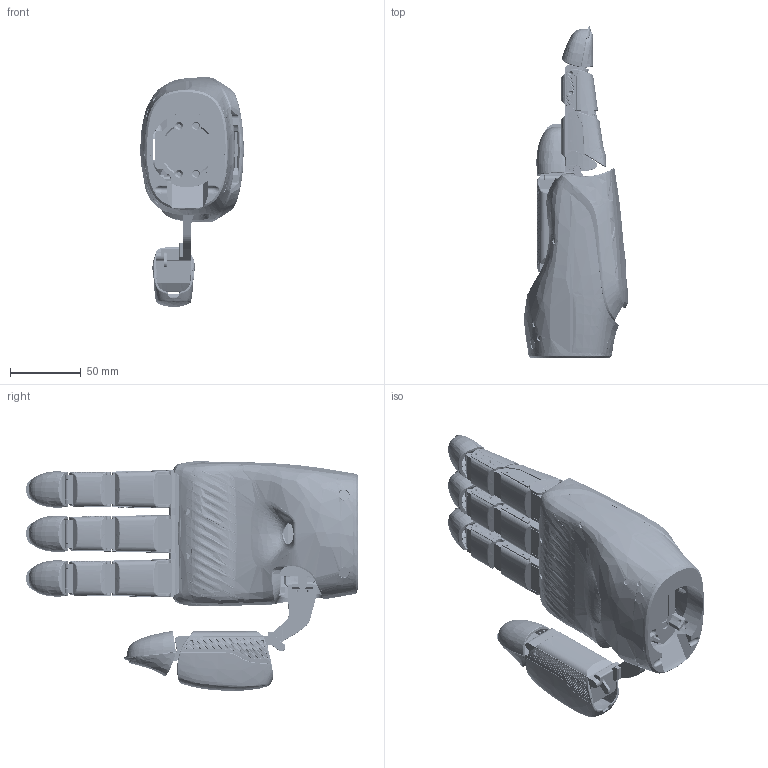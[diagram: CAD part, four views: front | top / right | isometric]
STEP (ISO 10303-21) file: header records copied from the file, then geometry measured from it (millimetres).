
FILE_DESCRIPTION((''),'2;1');
FILE_NAME('ASM0001_ASM_ASM','2025-08-18T17:59:40',('jinhui'),(''),'CREO PARAMETRIC BY PTC INC, 2021063','CREO PARAMETRIC BY PTC INC, 2021063','');
FILE_SCHEMA(('AUTOMOTIVE_DESIGN { 1 0 10303 214 1 1 1 1 }'));
Products named in the file (73): P01H9-MP0-01-D10001_1_3_MIR_1; P01H9-MP0-14-D2000_2_3_MIR_1; P01H9-MP0-15-D3000_2_3_MIR_1; P01H9-MP0-28-D0001_2_3_MIR_1; P01H9M1-31-C4000_2_ASM_2_MIR_1; 3-------OLD0001_ASM_4_ASM_2_MIR_ASM; P01H9M1-34-C30001_2_2_MIR_1; 4-------OLD0001_ASM_4_ASM_2_MIR_ASM; P01H9M1-32-C0001_1_3_MIR_1; 00-A_1_1_1_1_1_2_2_MIR_1; 00-B_1_1_1_1_1_2_2_MIR_1; 0013_ASM_2_ASM_2_MIR_ASM_1_ASM; 0012_ASM_1_ASM_2_MIR_ASM_1_ASM; P01S0M1-10001-A_1_56_1_2_2_MIR_; 2024_7_3_ASM_2_ASM_2_MIR_ASM_1_ASM; 2406270001_ASM_2_ASM_2_MIR_ASM__ASM; P01H9M1-115-C-0001_2_3_MIR_1; P01H9M1-116-B-0001_2_2_MIR_1; 2409050001_ASM_3_ASM_2_MIR_ASM__ASM; 20005_ASM_2_ASM_2_MIR_ASM_1_ASM; P01H9M1-125-B_0001_2_2_MIR_1; P01H9M1-124-C_0001_2_3_MIR_1; 2409060001_ASM_1_ASM_2_MIR_ASM__ASM; 0014_ASM_1_ASM_2_MIR_ASM_1_ASM; 2--EVT40001_ASM_4_ASM_2_MIR_ASM_ASM; P01H9M1-03-C0001_1_3_MIR_1; P01H9M1-07-B100_2_3_MIR_1; P01H9-MP0-05-C0001_2_3_MIR_1; P01H9M1-08-B200_1_2_MIR_1; P01H9M1-103-B-0001_2_2_MIR_1; P01H9M1-104-B-0001_2_2_MIR_1; P01H9M1-101-C-0001_3_4_MIR_1; P01H9M1-102-C-_NEW0001_2_4_MIR_; BREP_1_1_2_2_MIR_1; BREP_2_1_2_2_2_MIR_1; BREP_3_1_2_3_4_2_2_MIR_1; P01H9M1-132-A-0001_2_2_MIR_1; DOCUMENT_A_1_ASM_2_ASM_3_MIR_AS_ASM; 09260001_ASM_1_ASM_2_MIR_ASM_1_ASM; 2407090001_ASM_1_ASM_2_MIR_ASM__ASM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
Assembly tree (76 placements, depth 7):
  ASM0001_ASM_ASM
    ASM0001_ASM_1_ASM
      1-_1-EVT40001_ASM_4_ASM_3_MIR_A_ASM
        P01H9-MP0-01-D10001_1_3_MIR_1
        2--EVT40001_ASM_4_ASM_2_MIR_ASM_ASM
          P01H9-MP0-14-D2000_2_3_MIR_1
          P01H9-MP0-15-D3000_2_3_MIR_1
          P01H9-MP0-28-D0001_2_3_MIR_1
          3-------OLD0001_ASM_4_ASM_2_MIR_ASM
            P01H9M1-31-C4000_2_ASM_2_MIR_1
          P01H9M1-34-C30001_2_2_MIR_1
          4-------OLD0001_ASM_4_ASM_2_MIR_ASM
            P01H9M1-31-C4000_2_ASM_2_MIR_1
          0012_ASM_1_ASM_2_MIR_ASM_1_ASM
            P01H9M1-32-C0001_1_3_MIR_1
            0013_ASM_2_ASM_2_MIR_ASM_1_ASM
              00-A_1_1_1_1_1_2_2_MIR_1
              00-B_1_1_1_1_1_2_2_MIR_1
          2406270001_ASM_2_ASM_2_MIR_ASM__ASM
            2024_7_3_ASM_2_ASM_2_MIR_ASM_1_ASM
              P01S0M1-10001-A_1_56_1_2_2_MIR_
          20005_ASM_2_ASM_2_MIR_ASM_1_ASM
            2409050001_ASM_3_ASM_2_MIR_ASM__ASM
              P01H9M1-115-C-0001_2_3_MIR_1
              P01H9M1-116-B-0001_2_2_MIR_1
          0014_ASM_1_ASM_2_MIR_ASM_1_ASM
            2409060001_ASM_1_ASM_2_MIR_ASM__ASM
              P01H9M1-125-B_0001_2_2_MIR_1
              P01H9M1-124-C_0001_2_3_MIR_1
        P01H9M1-03-C0001_1_3_MIR_1
        P01H9M1-07-B100_2_3_MIR_1  x2
        P01H9-MP0-05-C0001_2_3_MIR_1
        P01H9M1-08-B200_1_2_MIR_1
        2407090001_ASM_1_ASM_2_MIR_ASM__ASM
          09260001_ASM_1_ASM_2_MIR_ASM_1_ASM
            DOCUMENT_A_1_ASM_2_ASM_3_MIR_AS_ASM
              P01H9M1-103-B-0001_2_2_MIR_1
              P01H9M1-104-B-0001_2_2_MIR_1
              P01H9M1-101-C-0001_3_4_MIR_1
              P01H9M1-102-C-_NEW0001_2_4_MIR_
              BREP_1_1_2_2_MIR_1
              BREP_2_1_2_2_2_MIR_1
              BREP_3_1_2_3_4_2_2_MIR_1
              P01H9M1-132-A-0001_2_2_MIR_1
      _EVT4_AF0_ASM_2_ASM_3_ASM_1_ASM  x3
        1--------OLD_AF1000_ASM_2_ASM_2_ASM
          P01H9M1-09-B000_1_ASM_2_ASM_1_ASM
            P01H9M1-09-B000_1_1_2_1
        P01H9-MP0-20-D500_2_2_1
        P01H9-MP0-21-D600_2_2_1
        20003_ASM_1_ASM_2_ASM_1_ASM
          P01H9-MP0-24-D0001_1_3_1
          00-G_1_1_1_2_2_2_1
          00-H_1_1_1_2_2_2_1
        10003_ASM_2_ASM_2_ASM_1_ASM
          P01H9-MP0-23-D0001_3_3_1
          00-D_1_1_1_1_2_2_2_1
          00-E_1_3_2_3_1
        1-2407090001_ASM_2_ASM_3_ASM_1_ASM
          2409230001_ASM_2_ASM_3_ASM_1_ASM
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Bounding box: 73.39 x 235.08 x 162.66 mm (x, y, z)
Volume: 651125.6 mm3; surface area: 324915.5 mm2
Topology: 68 solids, 70 shells, 7159 faces, 18962 edges, 12317 vertices
Faces by surface type: bspline 2598, plane 2317, cylinder 1744, cone 265, extrusion 208, torus 17, sphere 7, revolution 3
Entity records: 292199 total; most frequent: CARTESIAN_POINT 173331, ORIENTED_EDGE 23066, DIRECTION 16039, EDGE_CURVE 11533, VERTEX_POINT 7499, AXIS2_PLACEMENT_3D 5591, B_SPLINE_CURVE_WITH_KNOTS 4943, EDGE_LOOP 4728
